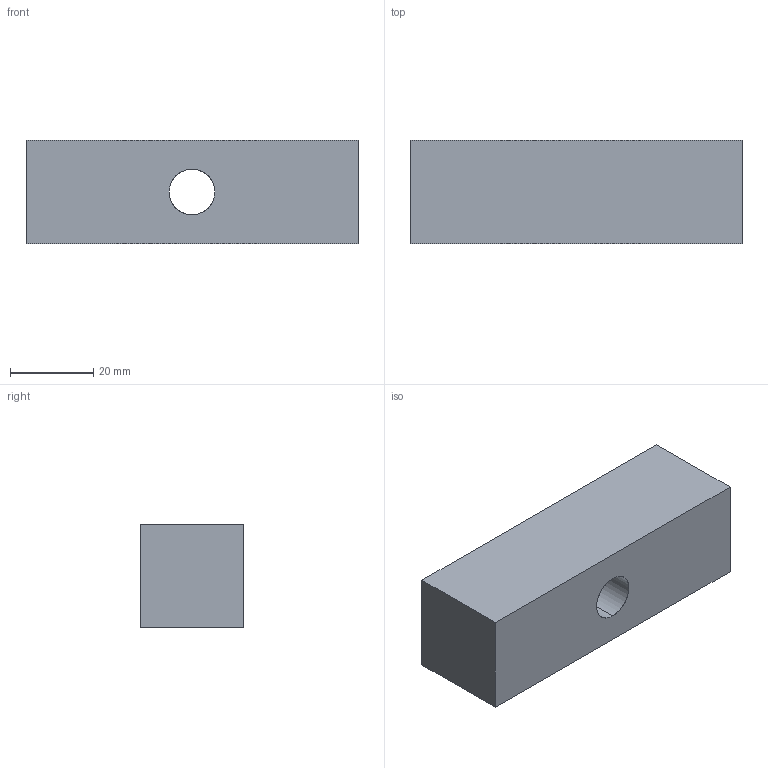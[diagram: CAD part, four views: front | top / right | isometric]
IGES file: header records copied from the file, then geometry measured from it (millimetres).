
Start section: START RECORD GO HERE.
Global section: file name: 760-2525080.igs; native system: DASSAULT SYSTEMES CATIA V5 R20 - www.3ds.com; preprocessor: CATIA Version 5 Release 20 ; author: Utente; organization: NB04-ASUS; date: 20200411.172836; units: millimetre
Bounding box: 80 x 25 x 25 mm (x, y, z)
Surface area: 10263.2 mm2 (no closed solid volume)
Topology: 0 solids, 0 shells, 11 faces, 48 edges, 48 vertices
Faces by surface type: extrusion 7, revolution 4
